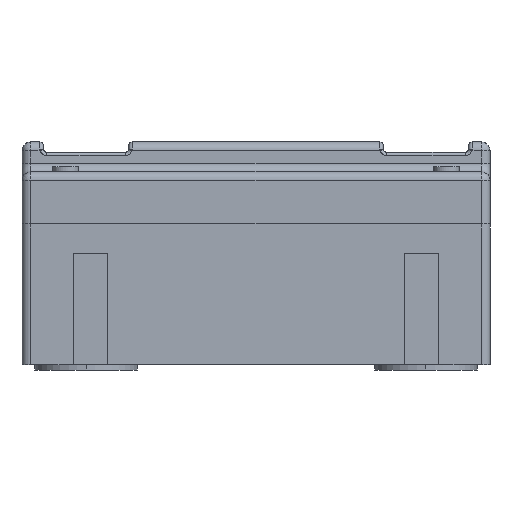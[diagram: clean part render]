
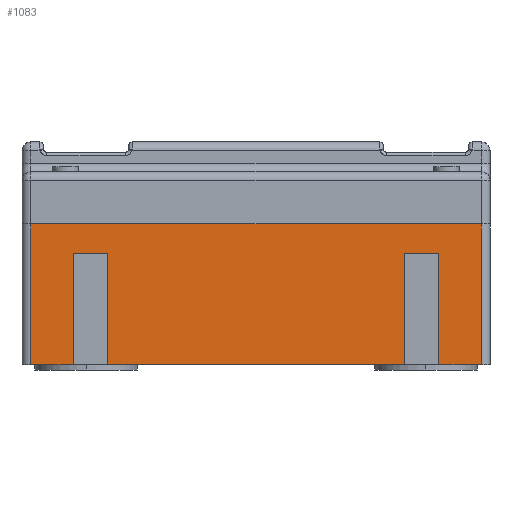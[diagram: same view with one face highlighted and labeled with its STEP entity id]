
A CAD part, front view. The second image highlights one B-rep face of the part: STEP entity #1083.
In plain terms, the highlighted planar face has unit normal (0, -1, 0).
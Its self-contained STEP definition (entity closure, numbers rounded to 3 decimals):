
#78=DIRECTION('',(1.,0.,0.));
#79=VECTOR('',#78,2.5);
#80=CARTESIAN_POINT('',(-13.2,-14.15,-4.125));
#81=LINE('',#80,#79);
#94=DIRECTION('',(1.,0.,0.));
#95=VECTOR('',#94,17.4);
#96=CARTESIAN_POINT('',(-8.7,-14.15,-4.125));
#97=LINE('',#96,#95);
#110=DIRECTION('',(1.,0.,0.));
#111=VECTOR('',#110,2.5);
#112=CARTESIAN_POINT('',(10.7,-14.15,-4.125));
#113=LINE('',#112,#111);
#273=DIRECTION('',(0.,0.,-1.));
#274=VECTOR('',#273,8.25);
#275=CARTESIAN_POINT('',(-13.2,-14.15,4.125));
#276=LINE('',#275,#274);
#277=DIRECTION('',(1.,0.,0.));
#278=VECTOR('',#277,26.4);
#279=CARTESIAN_POINT('',(-13.2,-14.15,4.125));
#280=LINE('',#279,#278);
#281=DIRECTION('',(0.,0.,-1.));
#282=VECTOR('',#281,8.25);
#283=CARTESIAN_POINT('',(13.2,-14.15,4.125));
#284=LINE('',#283,#282);
#285=DIRECTION('',(0.,0.,1.));
#286=VECTOR('',#285,6.5);
#287=CARTESIAN_POINT('',(10.7,-14.15,-4.125));
#288=LINE('',#287,#286);
#289=DIRECTION('',(-1.,0.,0.));
#290=VECTOR('',#289,2.);
#291=CARTESIAN_POINT('',(10.7,-14.15,2.375));
#292=LINE('',#291,#290);
#293=DIRECTION('',(0.,0.,1.));
#294=VECTOR('',#293,6.5);
#295=CARTESIAN_POINT('',(8.7,-14.15,-4.125));
#296=LINE('',#295,#294);
#297=DIRECTION('',(0.,0.,1.));
#298=VECTOR('',#297,6.5);
#299=CARTESIAN_POINT('',(-8.7,-14.15,-4.125));
#300=LINE('',#299,#298);
#301=DIRECTION('',(-1.,0.,0.));
#302=VECTOR('',#301,2.);
#303=CARTESIAN_POINT('',(-8.7,-14.15,2.375));
#304=LINE('',#303,#302);
#305=DIRECTION('',(0.,0.,1.));
#306=VECTOR('',#305,6.5);
#307=CARTESIAN_POINT('',(-10.7,-14.15,-4.125));
#308=LINE('',#307,#306);
#784=CARTESIAN_POINT('',(-10.7,-14.15,-4.125));
#785=VERTEX_POINT('',#784);
#786=CARTESIAN_POINT('',(-8.7,-14.15,-4.125));
#787=VERTEX_POINT('',#786);
#788=CARTESIAN_POINT('',(8.7,-14.15,-4.125));
#789=VERTEX_POINT('',#788);
#790=CARTESIAN_POINT('',(10.7,-14.15,-4.125));
#791=VERTEX_POINT('',#790);
#792=CARTESIAN_POINT('',(-10.7,-14.15,2.375));
#793=VERTEX_POINT('',#792);
#794=CARTESIAN_POINT('',(-8.7,-14.15,2.375));
#795=VERTEX_POINT('',#794);
#796=CARTESIAN_POINT('',(8.7,-14.15,2.375));
#797=VERTEX_POINT('',#796);
#798=CARTESIAN_POINT('',(10.7,-14.15,2.375));
#799=VERTEX_POINT('',#798);
#840=CARTESIAN_POINT('',(-13.2,-14.15,-4.125));
#842=VERTEX_POINT('',#840);
#846=CARTESIAN_POINT('',(-13.2,-14.15,4.125));
#847=VERTEX_POINT('',#846);
#865=CARTESIAN_POINT('',(13.2,-14.15,-4.125));
#867=VERTEX_POINT('',#865);
#868=CARTESIAN_POINT('',(13.2,-14.15,4.125));
#869=VERTEX_POINT('',#868);
#1055=CARTESIAN_POINT('',(-13.7,-14.15,-4.125));
#1056=DIRECTION('',(0.,-1.,0.));
#1057=DIRECTION('',(1.,0.,0.));
#1058=AXIS2_PLACEMENT_3D('',#1055,#1056,#1057);
#1059=PLANE('',#1058);
#1061=ORIENTED_EDGE('',*,*,#1060,.F.);
#1063=ORIENTED_EDGE('',*,*,#1062,.T.);
#1065=ORIENTED_EDGE('',*,*,#1064,.T.);
#1066=ORIENTED_EDGE('',*,*,#935,.F.);
#1068=ORIENTED_EDGE('',*,*,#1067,.T.);
#1070=ORIENTED_EDGE('',*,*,#1069,.T.);
#1072=ORIENTED_EDGE('',*,*,#1071,.F.);
#1073=ORIENTED_EDGE('',*,*,#927,.F.);
#1075=ORIENTED_EDGE('',*,*,#1074,.T.);
#1077=ORIENTED_EDGE('',*,*,#1076,.T.);
#1079=ORIENTED_EDGE('',*,*,#1078,.F.);
#1080=ORIENTED_EDGE('',*,*,#919,.F.);
#1081=EDGE_LOOP('',(#1061,#1063,#1065,#1066,#1068,#1070,#1072,#1073,#1075,#1077,
#1079,#1080));
#1082=FACE_OUTER_BOUND('',#1081,.F.);
#919=EDGE_CURVE('',#842,#785,#81,.T.);
#927=EDGE_CURVE('',#787,#789,#97,.T.);
#935=EDGE_CURVE('',#791,#867,#113,.T.);
#1060=EDGE_CURVE('',#847,#842,#276,.T.);
#1062=EDGE_CURVE('',#847,#869,#280,.T.);
#1064=EDGE_CURVE('',#869,#867,#284,.T.);
#1067=EDGE_CURVE('',#791,#799,#288,.T.);
#1069=EDGE_CURVE('',#799,#797,#292,.T.);
#1071=EDGE_CURVE('',#789,#797,#296,.T.);
#1074=EDGE_CURVE('',#787,#795,#300,.T.);
#1076=EDGE_CURVE('',#795,#793,#304,.T.);
#1078=EDGE_CURVE('',#785,#793,#308,.T.);
#1083=ADVANCED_FACE('',(#1082),#1059,.T.);
